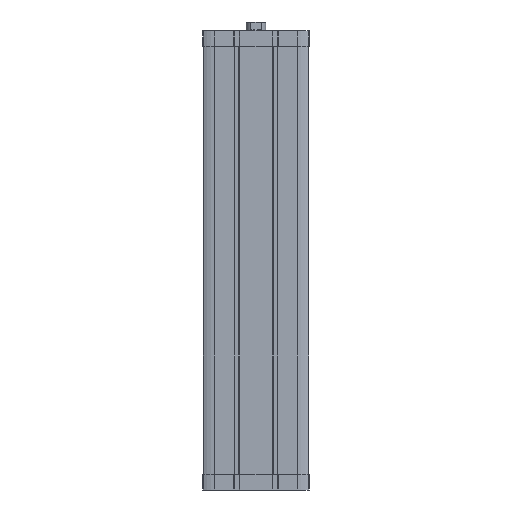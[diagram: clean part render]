
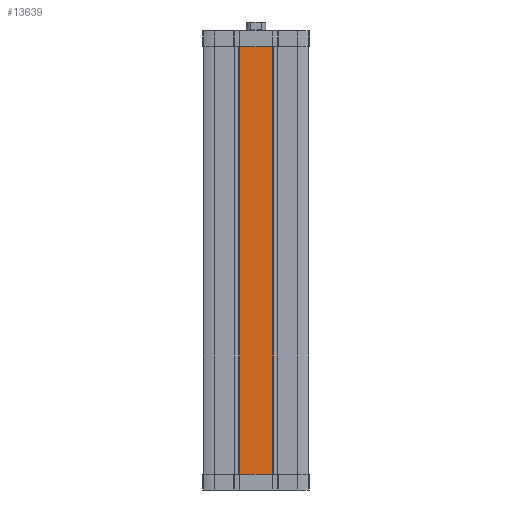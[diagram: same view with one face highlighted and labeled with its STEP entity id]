
A CAD part, front view. The second image highlights one B-rep face of the part: STEP entity #13639.
In plain terms, the highlighted planar face has unit normal (0, -1, 0).
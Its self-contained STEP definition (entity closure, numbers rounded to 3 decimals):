
#186 = CARTESIAN_POINT ( 'NONE',  ( -20.687, -67., -561. ) ) ;
#319 = VECTOR ( 'NONE', #7633, 1000. ) ;
#451 = EDGE_CURVE ( 'NONE', #5887, #10469, #9844, .T. ) ;
#825 = CARTESIAN_POINT ( 'NONE',  ( -67., -67., -561. ) ) ;
#1146 = VERTEX_POINT ( 'NONE', #5117 ) ;
#1308 = DIRECTION ( 'NONE',  ( 0., 0., 1. ) ) ;
#1766 = LINE ( 'NONE', #4373, #15375 ) ;
#1833 = ORIENTED_EDGE ( 'NONE', *, *, #451, .T. ) ;
#2300 = DIRECTION ( 'NONE',  ( 0., -1., 0. ) ) ;
#2694 = ORIENTED_EDGE ( 'NONE', *, *, #11990, .T. ) ;
#2740 = ORIENTED_EDGE ( 'NONE', *, *, #6585, .T. ) ;
#3601 = PLANE ( 'NONE',  #7760 ) ;
#4163 = EDGE_CURVE ( 'NONE', #12156, #9442, #1766, .T. ) ;
#4224 = LINE ( 'NONE', #12059, #8988 ) ;
#4373 = CARTESIAN_POINT ( 'NONE',  ( -21.3, -67., -20. ) ) ;
#4828 = DIRECTION ( 'NONE',  ( 1., 0., 0. ) ) ;
#4994 = FACE_OUTER_BOUND ( 'NONE', #8353, .T. ) ;
#5093 = CARTESIAN_POINT ( 'NONE',  ( 20.687, -67., -20. ) ) ;
#5117 = CARTESIAN_POINT ( 'NONE',  ( 20.687, -67., -561. ) ) ;
#5213 = CARTESIAN_POINT ( 'NONE',  ( -67., -67., -20. ) ) ;
#5296 = EDGE_CURVE ( 'NONE', #5887, #16625, #15333, .T. ) ;
#5770 = VECTOR ( 'NONE', #11415, 1000. ) ;
#5887 = VERTEX_POINT ( 'NONE', #16242 ) ;
#6120 = CARTESIAN_POINT ( 'NONE',  ( -21.3, -67., -561. ) ) ;
#6270 = EDGE_CURVE ( 'NONE', #10469, #1146, #4224, .T. ) ;
#6476 = DIRECTION ( 'NONE',  ( 0., 0., -1. ) ) ;
#6585 = EDGE_CURVE ( 'NONE', #1146, #14989, #12746, .T. ) ;
#7633 = DIRECTION ( 'NONE',  ( 1., 0., 0. ) ) ;
#7760 = AXIS2_PLACEMENT_3D ( 'NONE', #14291, #2300, #6476 ) ;
#8014 = CARTESIAN_POINT ( 'NONE',  ( -21.3, -67., -20. ) ) ;
#8074 = ORIENTED_EDGE ( 'NONE', *, *, #6270, .T. ) ;
#8353 = EDGE_LOOP ( 'NONE', ( #9360, #1833, #8074, #2740, #2694, #12991, #16029, #15497 ) ) ;
#8682 = CARTESIAN_POINT ( 'NONE',  ( -67., -67., -20. ) ) ;
#8937 = VECTOR ( 'NONE', #11316, 1000. ) ;
#8988 = VECTOR ( 'NONE', #9202, 1000. ) ;
#9202 = DIRECTION ( 'NONE',  ( 1., 0., 0. ) ) ;
#9360 = ORIENTED_EDGE ( 'NONE', *, *, #5296, .F. ) ;
#9401 = VECTOR ( 'NONE', #1308, 1000. ) ;
#9442 = VERTEX_POINT ( 'NONE', #5093 ) ;
#9565 = DIRECTION ( 'NONE',  ( 1., 0., 0. ) ) ;
#9844 = LINE ( 'NONE', #15143, #8937 ) ;
#9861 = CARTESIAN_POINT ( 'NONE',  ( 21.3, -67., -561. ) ) ;
#9923 = CARTESIAN_POINT ( 'NONE',  ( -20.687, -67., -20. ) ) ;
#9952 = VERTEX_POINT ( 'NONE', #9982 ) ;
#9982 = CARTESIAN_POINT ( 'NONE',  ( 21.3, -67., -20. ) ) ;
#10469 = VERTEX_POINT ( 'NONE', #186 ) ;
#10859 = VECTOR ( 'NONE', #9565, 1000. ) ;
#11151 = DIRECTION ( 'NONE',  ( 1., 0., 0. ) ) ;
#11316 = DIRECTION ( 'NONE',  ( 1., 0., 0. ) ) ;
#11415 = DIRECTION ( 'NONE',  ( 0., 0., 1. ) ) ;
#11990 = EDGE_CURVE ( 'NONE', #14989, #9952, #14515, .T. ) ;
#12059 = CARTESIAN_POINT ( 'NONE',  ( -21.3, -67., -561. ) ) ;
#12156 = VERTEX_POINT ( 'NONE', #9923 ) ;
#12746 = LINE ( 'NONE', #825, #15925 ) ;
#12991 = ORIENTED_EDGE ( 'NONE', *, *, #16147, .F. ) ;
#13639 = ADVANCED_FACE ( 'NONE', ( #4994 ), #3601, .T. ) ;
#14051 = LINE ( 'NONE', #8682, #319 ) ;
#14291 = CARTESIAN_POINT ( 'NONE',  ( -67., -67., -561. ) ) ;
#14515 = LINE ( 'NONE', #15997, #9401 ) ;
#14989 = VERTEX_POINT ( 'NONE', #9861 ) ;
#15143 = CARTESIAN_POINT ( 'NONE',  ( -67., -67., -561. ) ) ;
#15333 = LINE ( 'NONE', #6120, #5770 ) ;
#15375 = VECTOR ( 'NONE', #11151, 1000. ) ;
#15497 = ORIENTED_EDGE ( 'NONE', *, *, #15604, .F. ) ;
#15604 = EDGE_CURVE ( 'NONE', #16625, #12156, #15891, .T. ) ;
#15891 = LINE ( 'NONE', #5213, #10859 ) ;
#15925 = VECTOR ( 'NONE', #4828, 1000. ) ;
#15997 = CARTESIAN_POINT ( 'NONE',  ( 21.3, -67., -561. ) ) ;
#16029 = ORIENTED_EDGE ( 'NONE', *, *, #4163, .F. ) ;
#16147 = EDGE_CURVE ( 'NONE', #9442, #9952, #14051, .T. ) ;
#16242 = CARTESIAN_POINT ( 'NONE',  ( -21.3, -67., -561. ) ) ;
#16625 = VERTEX_POINT ( 'NONE', #8014 ) ;
